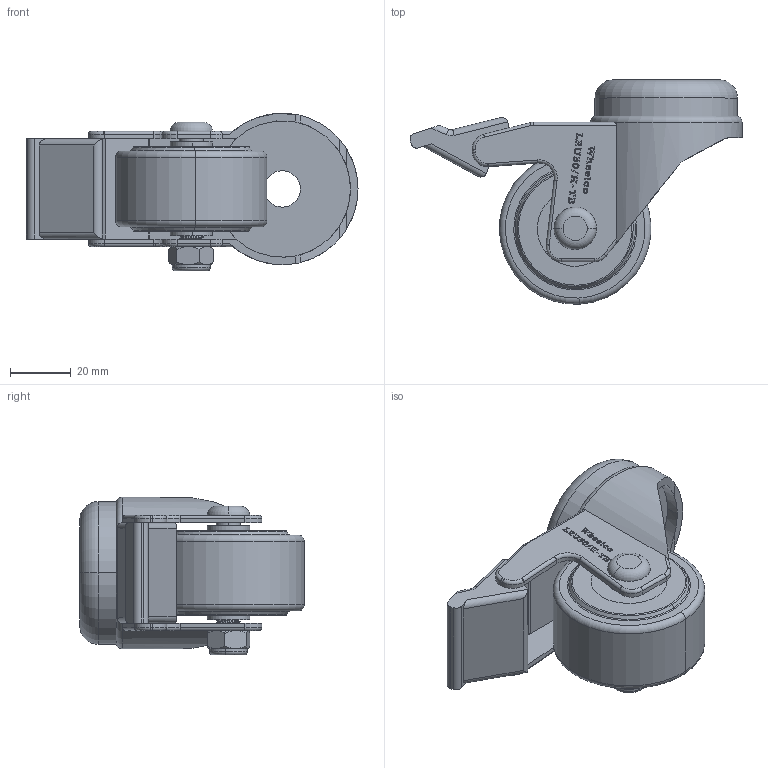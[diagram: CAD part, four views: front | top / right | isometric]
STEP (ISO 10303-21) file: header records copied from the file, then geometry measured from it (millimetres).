
FILE_DESCRIPTION (( 'STEP AP214' ), '1' );
FILE_NAME ('LRU50-H-TB.STEP', '2024-01-18T01:25:10', ( '' ), ( '' ), 'SwSTEP 2.0', 'SolidWorks 2022', '' );
FILE_SCHEMA (( 'AUTOMOTIVE_DESIGN' ));
Length unit declared in the file: millimetre
Products named in the file (5): WL bolt 50mm-8mm dia; LRU50-H-TB; LRU 50MM WHEEL; M8Nyloc
Assembly tree (4 placements, depth 2):
  LRU50-H-TB
    LRU50-H-TB
    LRU 50MM WHEEL
    WL bolt 50mm-8mm dia
    M8Nyloc
Bounding box: 109.48 x 73.96 x 52 mm (x, y, z)
Volume: 99534.1 mm3; surface area: 31847.1 mm2
Topology: 4 solids, 4 shells, 559 faces, 1487 edges, 971 vertices
Faces by surface type: plane 278, cylinder 120, bspline 103, torus 38, cone 18, sphere 2
Entity records: 26690 total; most frequent: CARTESIAN_POINT 12750, ORIENTED_EDGE 2970, DIRECTION 2299, EDGE_CURVE 1485, VERTEX_POINT 971, VECTOR 909, LINE 909, AXIS2_PLACEMENT_3D 695
